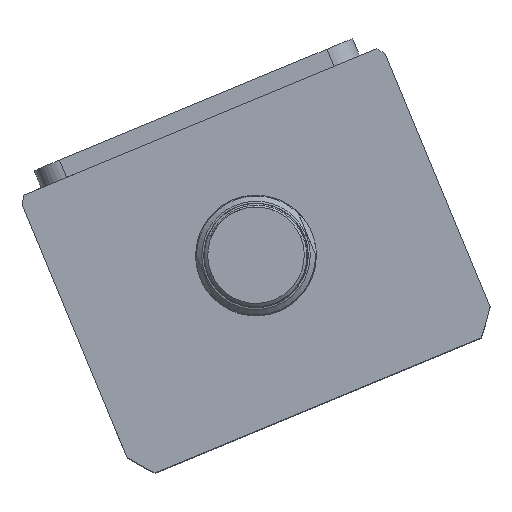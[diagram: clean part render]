
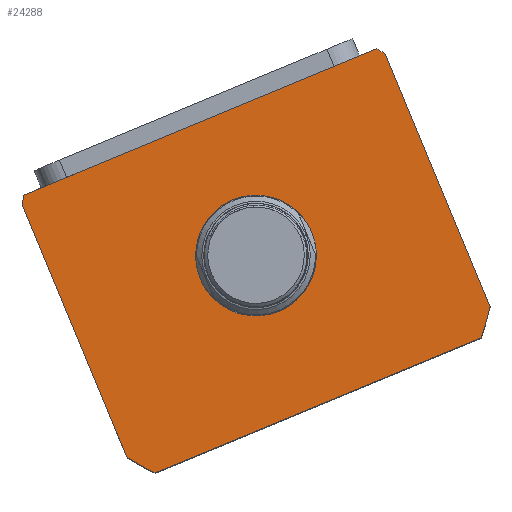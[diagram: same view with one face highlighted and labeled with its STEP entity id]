
A CAD part, top view. The second image highlights one B-rep face of the part: STEP entity #24288.
In plain terms, the highlighted planar face has unit normal (0, 0, 1) as drawn and (0, 0, -1) by its records, which use the part's own axes.
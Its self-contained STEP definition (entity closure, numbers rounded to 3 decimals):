
#532 = DIRECTION ( 'NONE',  ( 0., -1., 0. ) ) ;
#720 = CARTESIAN_POINT ( 'NONE',  ( -57., 44.5, 0. ) ) ;
#1505 = EDGE_CURVE ( 'NONE', #2163, #18779, #18606, .T. ) ;
#1979 = PLANE ( 'NONE',  #4395 ) ;
#1997 = DIRECTION ( 'NONE',  ( 0., 0., 1. ) ) ;
#2163 = VERTEX_POINT ( 'NONE', #4948 ) ;
#2464 = ORIENTED_EDGE ( 'NONE', *, *, #6962, .F. ) ;
#2572 = VERTEX_POINT ( 'NONE', #23178 ) ;
#2822 = VERTEX_POINT ( 'NONE', #11760 ) ;
#2825 = CARTESIAN_POINT ( 'NONE',  ( 0., 2.5, 0. ) ) ;
#3037 = CIRCLE ( 'NONE', #12647, 17.5 ) ;
#3216 = EDGE_CURVE ( 'NONE', #21071, #2822, #3037, .T. ) ;
#3356 = ORIENTED_EDGE ( 'NONE', *, *, #17972, .F. ) ;
#4114 = DIRECTION ( 'NONE',  ( 1., 0., 0. ) ) ;
#4377 = ORIENTED_EDGE ( 'NONE', *, *, #20758, .T. ) ;
#4395 = AXIS2_PLACEMENT_3D ( 'NONE', #14979, #17165, #4114 ) ;
#4558 = DIRECTION ( 'NONE',  ( 0., 0., 1. ) ) ;
#4948 = CARTESIAN_POINT ( 'NONE',  ( -57., -37.265, 0. ) ) ;
#4998 = DIRECTION ( 'NONE',  ( 1., 0., 0. ) ) ;
#5154 = EDGE_CURVE ( 'NONE', #2572, #16105, #24754, .T. ) ;
#5375 = CARTESIAN_POINT ( 'NONE',  ( 0., 2.5, 0. ) ) ;
#5579 = DIRECTION ( 'NONE',  ( 1., 0., 0. ) ) ;
#5639 = DIRECTION ( 'NONE',  ( 0., 0., 1. ) ) ;
#6094 = AXIS2_PLACEMENT_3D ( 'NONE', #17591, #4558, #19784 ) ;
#6384 = ORIENTED_EDGE ( 'NONE', *, *, #1505, .F. ) ;
#6904 = ORIENTED_EDGE ( 'NONE', *, *, #22886, .F. ) ;
#6948 = ORIENTED_EDGE ( 'NONE', *, *, #18598, .F. ) ;
#6962 = EDGE_CURVE ( 'NONE', #8896, #2163, #8434, .T. ) ;
#7107 = ORIENTED_EDGE ( 'NONE', *, *, #10559, .F. ) ;
#7593 = DIRECTION ( 'NONE',  ( 1., 0., 0. ) ) ;
#8176 = ORIENTED_EDGE ( 'NONE', *, *, #17776, .F. ) ;
#8434 = LINE ( 'NONE', #24364, #14210 ) ;
#8896 = VERTEX_POINT ( 'NONE', #15957 ) ;
#8962 = CIRCLE ( 'NONE', #10953, 69.5 ) ;
#9013 = AXIS2_PLACEMENT_3D ( 'NONE', #5375, #20586, #7593 ) ;
#9725 = AXIS2_PLACEMENT_3D ( 'NONE', #2825, #18007, #4998 ) ;
#9992 = CARTESIAN_POINT ( 'NONE',  ( -57., -44.5, 0. ) ) ;
#10559 = EDGE_CURVE ( 'NONE', #24251, #15401, #15219, .T. ) ;
#10569 = VECTOR ( 'NONE', #26931, 1000. ) ;
#10953 = AXIS2_PLACEMENT_3D ( 'NONE', #14998, #1997, #17182 ) ;
#11006 = VECTOR ( 'NONE', #16020, 1000. ) ;
#11305 = CARTESIAN_POINT ( 'NONE',  ( 0., 2.5, 0. ) ) ;
#11361 = EDGE_LOOP ( 'NONE', ( #4377, #27341 ) ) ;
#11760 = CARTESIAN_POINT ( 'NONE',  ( 17.5, 2.5, 0. ) ) ;
#11932 = VERTEX_POINT ( 'NONE', #24476 ) ;
#12647 = AXIS2_PLACEMENT_3D ( 'NONE', #18658, #5639, #20843 ) ;
#14210 = VECTOR ( 'NONE', #532, 1000. ) ;
#14442 = CARTESIAN_POINT ( 'NONE',  ( 57., 42.265, 0. ) ) ;
#14979 = CARTESIAN_POINT ( 'NONE',  ( 0., 0., 0. ) ) ;
#14998 = CARTESIAN_POINT ( 'NONE',  ( 0., 2.5, 0. ) ) ;
#15037 = VECTOR ( 'NONE', #5579, 1000. ) ;
#15219 = CIRCLE ( 'NONE', #9013, 69.5 ) ;
#15401 = VERTEX_POINT ( 'NONE', #15749 ) ;
#15630 = LINE ( 'NONE', #18073, #10569 ) ;
#15749 = CARTESIAN_POINT ( 'NONE',  ( 55.374, 44.5, 0. ) ) ;
#15957 = CARTESIAN_POINT ( 'NONE',  ( -57., 42.265, 0. ) ) ;
#16020 = DIRECTION ( 'NONE',  ( -1., 0., 0. ) ) ;
#16105 = VERTEX_POINT ( 'NONE', #22157 ) ;
#16212 = FACE_OUTER_BOUND ( 'NONE', #26474, .T. ) ;
#17165 = DIRECTION ( 'NONE',  ( 0., 0., 1. ) ) ;
#17182 = DIRECTION ( 'NONE',  ( 1., 0., 0. ) ) ;
#17591 = CARTESIAN_POINT ( 'NONE',  ( 0., 2.5, 0. ) ) ;
#17776 = EDGE_CURVE ( 'NONE', #15401, #11932, #21840, .T. ) ;
#17972 = EDGE_CURVE ( 'NONE', #11932, #8896, #8962, .T. ) ;
#18007 = DIRECTION ( 'NONE',  ( 0., 0., 1. ) ) ;
#18073 = CARTESIAN_POINT ( 'NONE',  ( 57., 44.5, 0. ) ) ;
#18598 = EDGE_CURVE ( 'NONE', #18779, #2572, #20831, .T. ) ;
#18606 = CIRCLE ( 'NONE', #24458, 69.5 ) ;
#18658 = CARTESIAN_POINT ( 'NONE',  ( 0., 2.5, 0. ) ) ;
#18779 = VERTEX_POINT ( 'NONE', #21144 ) ;
#19784 = DIRECTION ( 'NONE',  ( 1., 0., 0. ) ) ;
#19916 = DIRECTION ( 'NONE',  ( 0., 0., 1. ) ) ;
#20261 = ORIENTED_EDGE ( 'NONE', *, *, #5154, .F. ) ;
#20586 = DIRECTION ( 'NONE',  ( 0., 0., 1. ) ) ;
#20758 = EDGE_CURVE ( 'NONE', #2822, #21071, #26883, .T. ) ;
#20831 = LINE ( 'NONE', #9992, #15037 ) ;
#20843 = DIRECTION ( 'NONE',  ( 1., 0., 0. ) ) ;
#21071 = VERTEX_POINT ( 'NONE', #23054 ) ;
#21144 = CARTESIAN_POINT ( 'NONE',  ( -51.198, -44.5, 0. ) ) ;
#21280 = FACE_BOUND ( 'NONE', #11361, .T. ) ;
#21840 = LINE ( 'NONE', #720, #11006 ) ;
#22157 = CARTESIAN_POINT ( 'NONE',  ( 57., -37.265, 0. ) ) ;
#22886 = EDGE_CURVE ( 'NONE', #16105, #24251, #15630, .T. ) ;
#23054 = CARTESIAN_POINT ( 'NONE',  ( -17.5, 2.5, 0. ) ) ;
#23178 = CARTESIAN_POINT ( 'NONE',  ( 51.198, -44.5, 0. ) ) ;
#24251 = VERTEX_POINT ( 'NONE', #14442 ) ;
#24268 = DIRECTION ( 'NONE',  ( 1., 0., 0. ) ) ;
#24288 = ADVANCED_FACE ( 'NONE', ( #21280, #16212 ), #1979, .F. ) ;
#24364 = CARTESIAN_POINT ( 'NONE',  ( -57., 44.5, 0. ) ) ;
#24458 = AXIS2_PLACEMENT_3D ( 'NONE', #11305, #19916, #24268 ) ;
#24476 = CARTESIAN_POINT ( 'NONE',  ( -55.374, 44.5, 0. ) ) ;
#24754 = CIRCLE ( 'NONE', #6094, 69.5 ) ;
#26474 = EDGE_LOOP ( 'NONE', ( #7107, #6904, #20261, #6948, #6384, #2464, #3356, #8176 ) ) ;
#26883 = CIRCLE ( 'NONE', #9725, 17.5 ) ;
#26931 = DIRECTION ( 'NONE',  ( 0., 1., 0. ) ) ;
#27341 = ORIENTED_EDGE ( 'NONE', *, *, #3216, .T. ) ;
